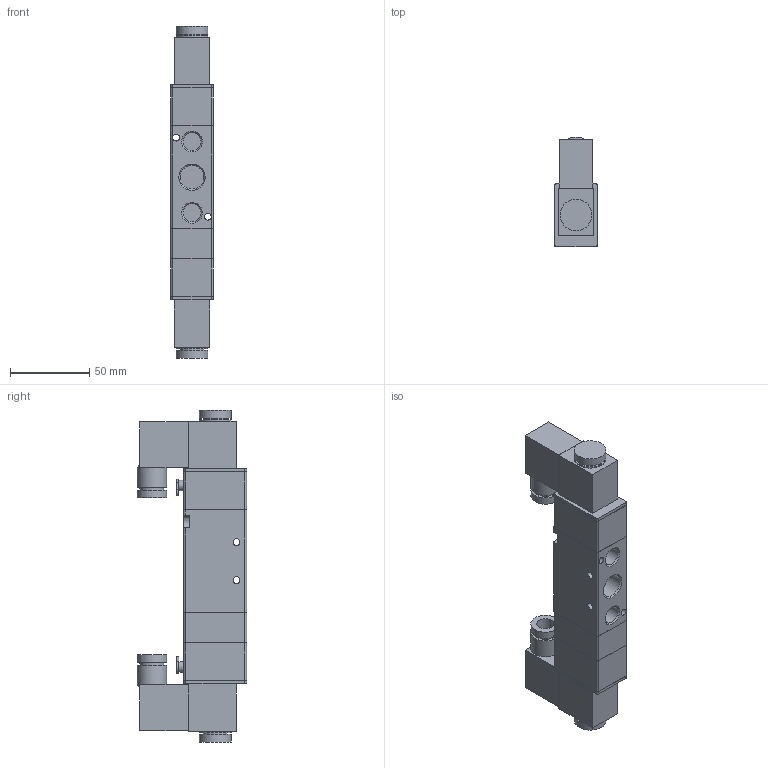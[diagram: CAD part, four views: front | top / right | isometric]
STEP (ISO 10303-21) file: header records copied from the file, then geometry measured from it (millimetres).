
FILE_DESCRIPTION( ( 'STEP AP214' ), '1' );
FILE_NAME( 'C:/Users/emc02044/Desktop/RV五通/RV5332P-10E8.stp', '2026-07-31T10:51:11', ( 'License CC BY-ND 4.0' ), ( 'CADENAS' ), ' ', 'PARTsolutions', ' ' );
FILE_SCHEMA( ( 'AUTOMOTIVE_DESIGN { 1 0 10303 214 1 1 1 1 }' ) );
Length unit declared in the file: millimetre
Products named in the file (1): _RV5332P-10E8
Bounding box: 27 x 69.3 x 209.7 mm (x, y, z)
Volume: 222519.9 mm3; surface area: 42546.9 mm2
Topology: 1 solids, 1 shells, 148 faces, 349 edges, 233 vertices
Faces by surface type: plane 84, cylinder 57, cone 7
Full cylindrical faces by diameter (mm): 4.3 x4, 6.5 x2, 10.8 x2, 11.445 x2, 14.95 x3, 15 x4, 18.6 x4, 20 x4
Entity records: 5314 total; most frequent: DIRECTION 728, CARTESIAN_POINT 727, ORIENTED_EDGE 622, EDGE_CURVE 311, AXIS2_PLACEMENT_3D 270, VERTEX_POINT 225, EDGE_LOOP 216, LINE 188
